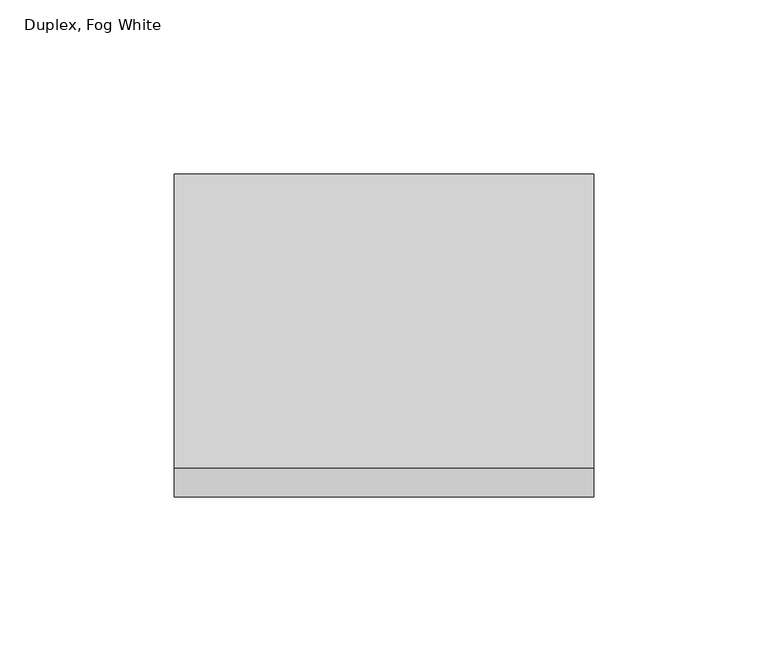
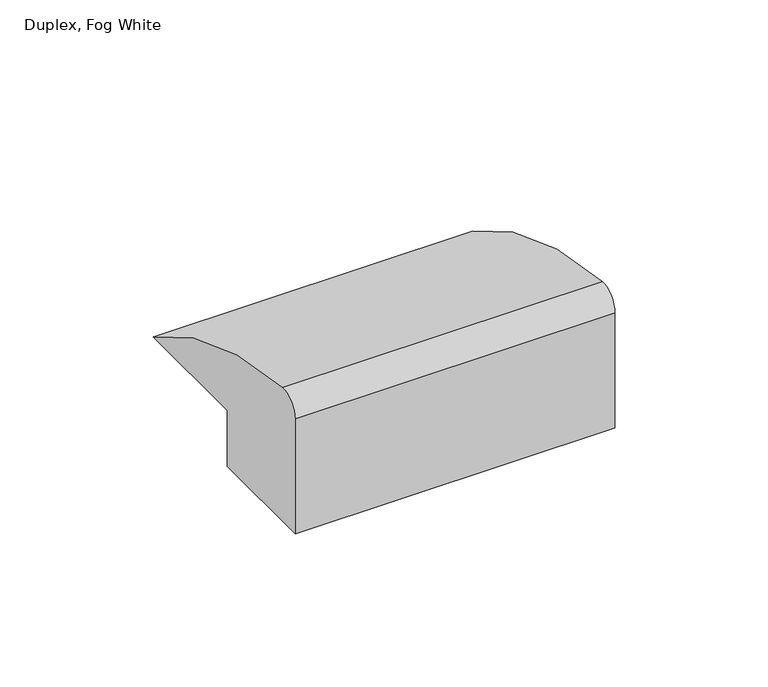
"""IFC4 building model written with IfcOpenShell, lengths in millimetres: proxy geometry, Device_Plate-2400_Series-Wiremold-Downward : Duplex, Fog White."""

from ifc_helpers import new_model, si_unit, point, frame, frame_2d, origin, place, context, project, spatial, polyline, circle_curve, trimmed, segment, composite_curve, outline, extrude, source, transform, mapped, element, save


def duplex_fog_white_c4e692c3(model_context):
    return source(origin(), model_context, "Body", "SweptSolid", [
        extrude(outline(composite_curve([segment(polyline([(-68.659375, -22.225), (-68.659375, 23.6491507)]), True, "CONTINUOUS"), segment(trimmed(circle_curve(frame_2d((-61.039375, 23.6491507)), 7.62), [point((-68.659375, 23.6491507))], [point((-60.3865903, 31.241138))], False, "CARTESIAN"), True, "CONTINUOUS"), segment(trimmed(circle_curve(frame_2d((-74.974358, -138.4168723)), 170.2840081), [point((-60.3865903, 31.241138))], [point((24.209375, 0.0))], False, "CARTESIAN"), True, "CONTINUOUS"), segment(polyline([(24.209375, 0.0), (-24.209375, 0.0), (-24.209375, -22.225), (-68.659375, -22.225)]), True, "CONTINUOUS")], self_intersect=False)), frame((-60.325, 0.0, 0.0), z_axis=(1.0, 0.0, 0.0), x_axis=(0.0, 1.0, 0.0)), (0.0, 0.0, 1.0), 120.65),
    ])


if __name__ == "__main__":
    model = new_model("IFC4")
    model_context = context("Model", 3, world=origin())
    ifc_project = project(units=[si_unit("LENGTHUNIT", "METRE", prefix="MILLI")], contexts=[model_context])
    site = spatial("IfcSite", under=ifc_project)
    building = spatial("IfcBuilding", under=site)
    placement = place(None, origin())
    duplex_fog_white_shape = duplex_fog_white_c4e692c3(model_context)
    element("IfcBuildingElementProxy", 1, Name="Device_Plate-2400_Series-Wiremold-Downward : Duplex, Fog White", ObjectType="Device_Plate-2400_Series-Wiremold-Downward : Duplex, Fog White", at=placement, inside=building, context=model_context, shape_type="MappedRepresentation", body=[
        mapped(duplex_fog_white_shape, transform((0.0, 0.0, 0.0), x_axis=(1.0, 0.0, 0.0), y_axis=(0.0, 1.0, 0.0), z_axis=(0.0, 0.0, 1.0))),
    ])
    save(model, "model.ifc")
